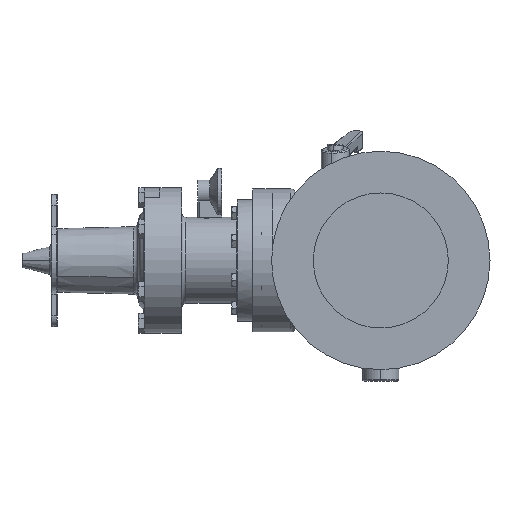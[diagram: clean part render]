
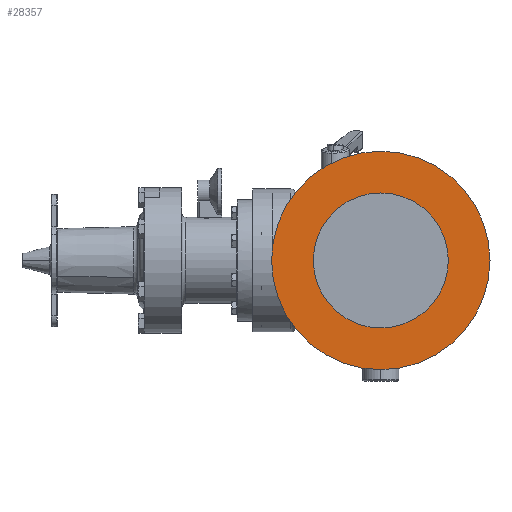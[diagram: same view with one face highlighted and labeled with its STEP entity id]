
A CAD part, left-side view. The second image highlights one B-rep face of the part: STEP entity #28357.
In plain terms, the highlighted planar face has unit normal (-1, 0, 0).
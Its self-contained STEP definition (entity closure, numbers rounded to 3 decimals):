
#9470=CARTESIAN_POINT('',(-92.,0.,0.));
#9471=DIRECTION('',(-1.,0.,0.));
#9472=DIRECTION('',(0.,1.,0.));
#9473=AXIS2_PLACEMENT_3D('',#9470,#9471,#9472);
#9475=CARTESIAN_POINT('',(-92.,0.,0.));
#9476=DIRECTION('',(1.,0.,0.));
#9477=DIRECTION('',(0.,1.,0.));
#9478=AXIS2_PLACEMENT_3D('',#9475,#9476,#9477);
#9480=CARTESIAN_POINT('',(-92.,0.,0.));
#9481=DIRECTION('',(1.,0.,0.));
#9482=DIRECTION('',(0.,1.,0.));
#9483=AXIS2_PLACEMENT_3D('',#9480,#9481,#9482);
#9493=CARTESIAN_POINT('',(-92.,0.,0.));
#9494=DIRECTION('',(-1.,0.,0.));
#9495=DIRECTION('',(0.,1.,0.));
#9496=AXIS2_PLACEMENT_3D('',#9493,#9494,#9495);
#15953=CARTESIAN_POINT('',(-92.,82.5,0.));
#15955=VERTEX_POINT('',#15953);
#15956=CARTESIAN_POINT('',(-92.,51.,0.));
#15958=VERTEX_POINT('',#15956);
#15961=CARTESIAN_POINT('',(-92.,-82.5,0.));
#15963=VERTEX_POINT('',#15961);
#15964=CARTESIAN_POINT('',(-92.,-51.,0.));
#15966=VERTEX_POINT('',#15964);
#28342=CARTESIAN_POINT('',(-92.,0.,0.));
#28343=DIRECTION('',(1.,0.,0.));
#28344=DIRECTION('',(0.,-1.,0.));
#28345=AXIS2_PLACEMENT_3D('',#28342,#28343,#28344);
#28346=PLANE('',#28345);
#28347=ORIENTED_EDGE('',*,*,#28335,.F.);
#28348=ORIENTED_EDGE('',*,*,#28324,.T.);
#28349=EDGE_LOOP('',(#28347,#28348));
#28350=FACE_OUTER_BOUND('',#28349,.F.);
#28352=ORIENTED_EDGE('',*,*,#28351,.F.);
#28354=ORIENTED_EDGE('',*,*,#28353,.T.);
#28355=EDGE_LOOP('',(#28352,#28354));
#28356=FACE_BOUND('',#28355,.F.);
#28357=ADVANCED_FACE('',(#28350,#28356),#28346,.F.);
#9474=CIRCLE('',#9473,82.5);
#9479=CIRCLE('',#9478,82.5);
#9484=CIRCLE('',#9483,51.);
#9497=CIRCLE('',#9496,51.);
#28324=EDGE_CURVE('',#15955,#15963,#9479,.T.);
#28335=EDGE_CURVE('',#15955,#15963,#9474,.T.);
#28351=EDGE_CURVE('',#15958,#15966,#9484,.T.);
#28353=EDGE_CURVE('',#15958,#15966,#9497,.T.);
